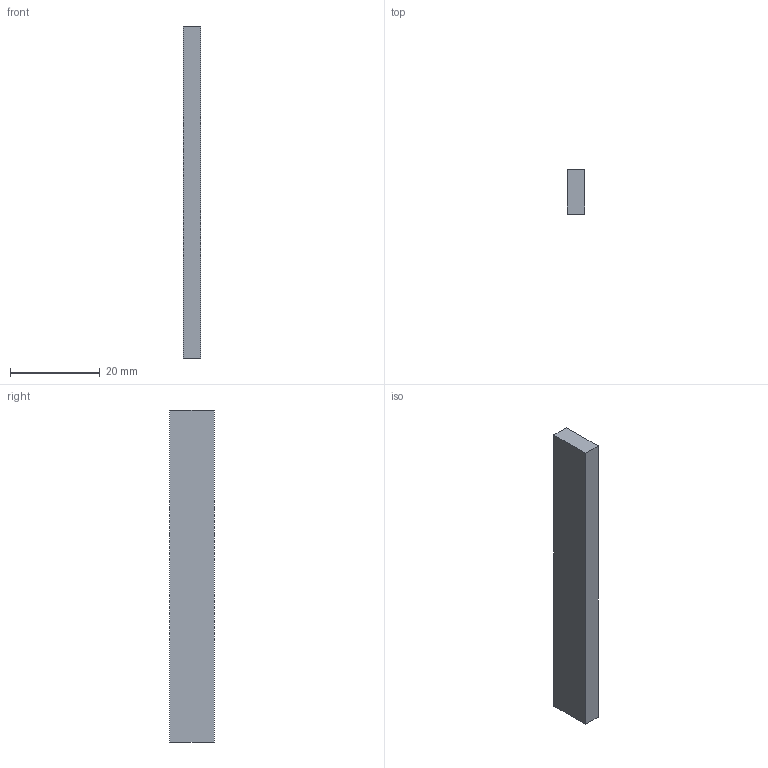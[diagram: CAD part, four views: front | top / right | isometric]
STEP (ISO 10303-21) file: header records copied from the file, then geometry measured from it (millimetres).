
FILE_DESCRIPTION(('Open CASCADE Model'),'2;1');
FILE_NAME('Open CASCADE Shape Model','2026-11-24T19:57:39',('Author'),( 'Open CASCADE'),'Open CASCADE STEP processor 7.8','Open CASCADE 7.8' ,'Unknown');
FILE_SCHEMA(('AUTOMOTIVE_DESIGN { 1 0 10303 214 1 1 1 1 }'));
Length unit declared in the file: millimetre
Products named in the file (1): Open CASCADE STEP translator 7.8 75
Bounding box: 4 x 10 x 74 mm (x, y, z)
Volume: 2960 mm3; surface area: 2152 mm2
Topology: 1 solids, 1 shells, 6 faces, 12 edges, 8 vertices
Faces by surface type: plane 6
Entity records: 322 total; most frequent: CARTESIAN_POINT 51, DIRECTION 50, LINE 36, VECTOR 36, ORIENTED_EDGE 24, PCURVE 24, DEFINITIONAL_REPRESENTATION 24, EDGE_CURVE 12
